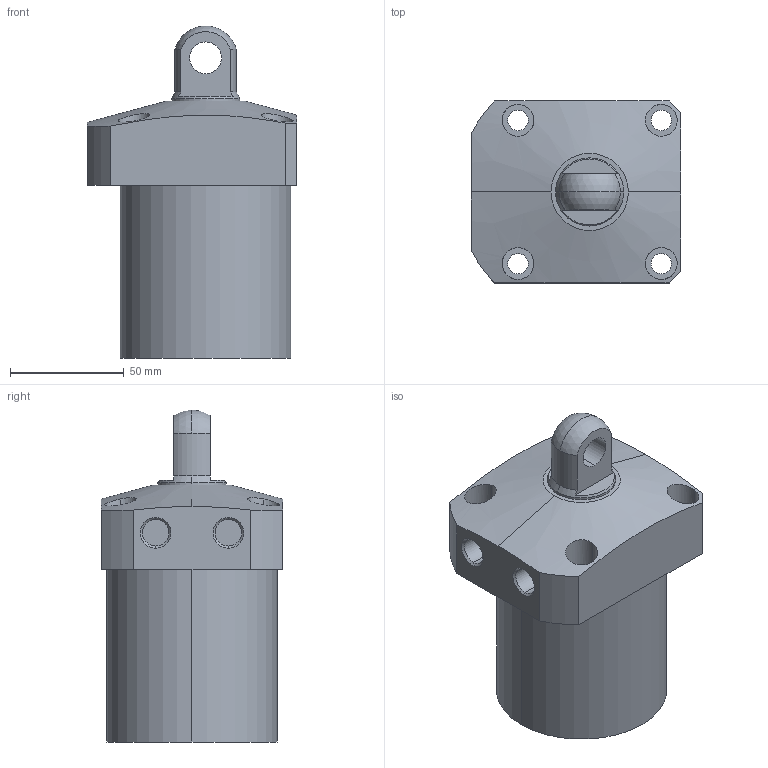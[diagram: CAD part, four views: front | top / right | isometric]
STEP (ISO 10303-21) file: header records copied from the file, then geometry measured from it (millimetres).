
FILE_DESCRIPTION (( 'STEP AP203' ), '1' );
FILE_NAME ('CLL-075CP-60.STEP', '2019-12-20T08:31:57', ( '' ), ( '' ), 'SwSTEP 2.0', 'SolidWorks 2015', '' );
FILE_SCHEMA (( 'CONFIG_CONTROL_DESIGN' ));
Length unit declared in the file: millimetre
Products named in the file (1): CLL-075CP-60
Bounding box: 92 x 80 x 146 mm (x, y, z)
Volume: 565227.5 mm3; surface area: 49176.7 mm2
Topology: 1 solids, 1 shells, 66 faces, 155 edges, 101 vertices
Faces by surface type: cylinder 35, plane 21, cone 8, sphere 2
Entity records: 2408 total; most frequent: CARTESIAN_POINT 755, DIRECTION 345, ORIENTED_EDGE 310, EDGE_CURVE 155, AXIS2_PLACEMENT_3D 143, VERTEX_POINT 101, EDGE_LOOP 86, CIRCLE 76
